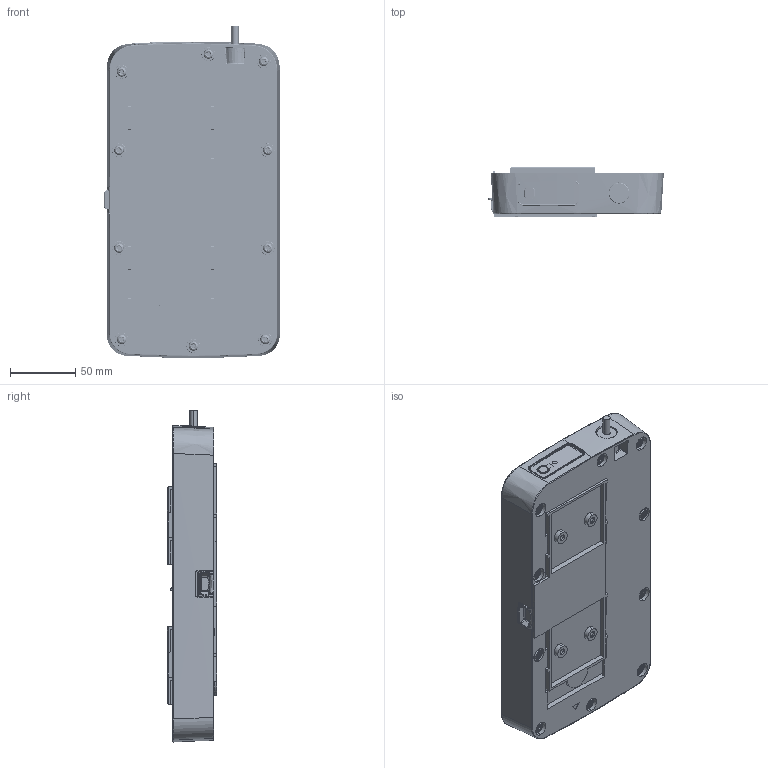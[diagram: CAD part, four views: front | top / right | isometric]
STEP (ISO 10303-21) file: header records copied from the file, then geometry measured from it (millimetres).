
FILE_DESCRIPTION (( 'STEP AP203' ), '1' );
FILE_NAME ('3D_TBB10OK.STEP', '2022-11-16T09:38:47', ( '' ), ( '' ), 'SwSTEP 2.0', 'SolidWorks 2015', '' );
FILE_SCHEMA (( 'CONFIG_CONTROL_DESIGN' ));
Products named in the file (1): 3D_TBB10OK
Bounding box: 134.52 x 37.7 x 254.41 mm (x, y, z)
Volume: 282566.3 mm3; surface area: 274776.4 mm2
Topology: 28 solids, 28 shells, 2965 faces, 7870 edges, 5093 vertices
Faces by surface type: plane 1335, cylinder 1068, bspline 416, cone 146
Entity records: 142235 total; most frequent: CARTESIAN_POINT 74368, ORIENTED_EDGE 15712, DIRECTION 12262, EDGE_CURVE 7856, VERTEX_POINT 5093, LINE 4234, VECTOR 4234, AXIS2_PLACEMENT_3D 4014
